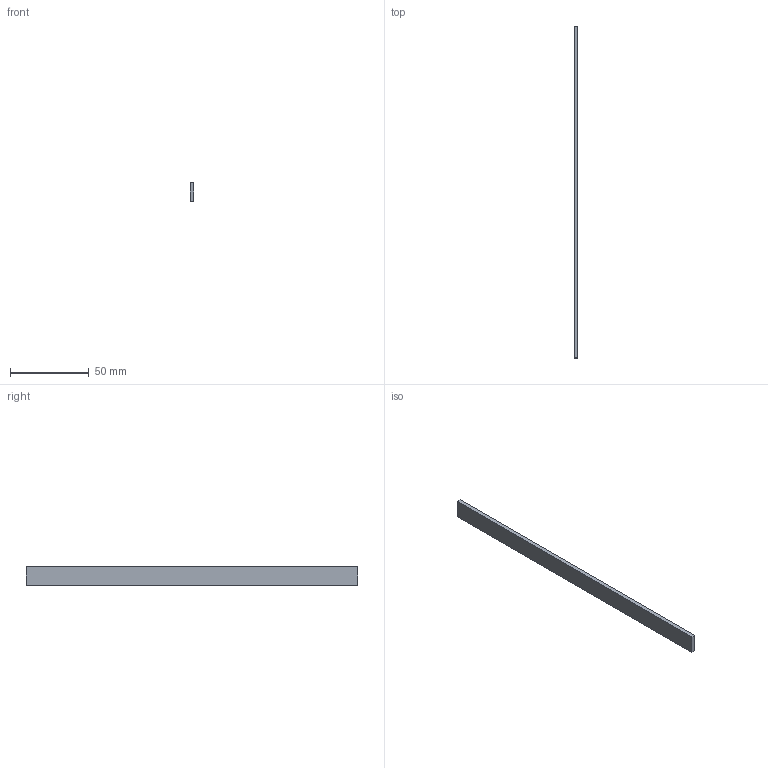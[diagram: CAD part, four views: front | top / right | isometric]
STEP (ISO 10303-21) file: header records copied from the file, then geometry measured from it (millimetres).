
FILE_DESCRIPTION(('FreeCAD Model'),'2;1');
FILE_NAME('Open CASCADE Shape Model','2026-10-15T22:53:25',('FreeCAD'),( 'FreeCAD'),'Open CASCADE STEP processor 7.8','FreeCAD','Unknown');
FILE_SCHEMA(('AUTOMOTIVE_DESIGN { 1 0 10303 214 1 1 1 1 }'));
Length unit declared in the file: millimetre
Products named in the file (1): Open CASCADE STEP translator 7.8 9
Bounding box: 2.5 x 211 x 12 mm (x, y, z)
Volume: 6330 mm3; surface area: 6179 mm2
Topology: 1 solids, 1 shells, 6 faces, 12 edges, 8 vertices
Faces by surface type: plane 6
Entity records: 166 total; most frequent: CARTESIAN_POINT 27, DIRECTION 26, ORIENTED_EDGE 24, EDGE_CURVE 12, LINE 12, VECTOR 12, VERTEX_POINT 8, AXIS2_PLACEMENT_3D 7
